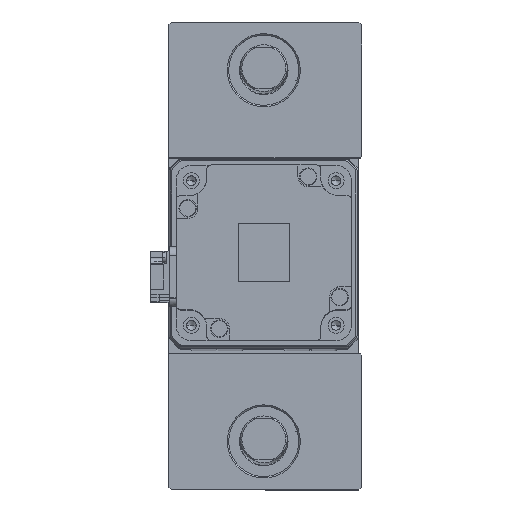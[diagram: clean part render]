
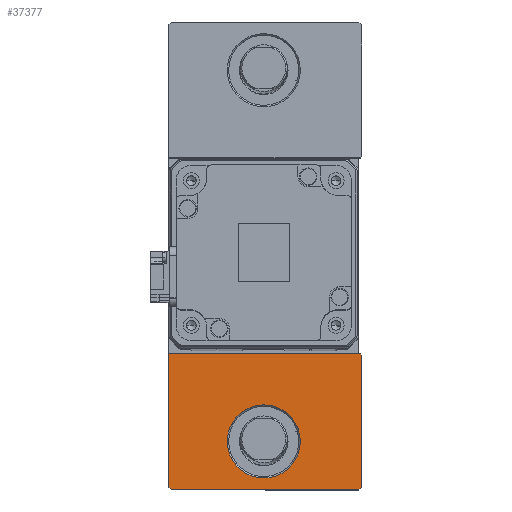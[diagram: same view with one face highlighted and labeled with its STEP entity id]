
A CAD part, top view. The second image highlights one B-rep face of the part: STEP entity #37377.
In plain terms, the highlighted planar face has unit normal (0, 0, 1).
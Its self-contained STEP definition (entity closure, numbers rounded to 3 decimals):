
#487 = VERTEX_POINT ( 'NONE', #15112 ) ;
#2893 = DIRECTION ( 'NONE',  ( 1., 0., 0. ) ) ;
#3188 = EDGE_CURVE ( 'NONE', #22196, #21367, #21254, .T. ) ;
#3394 = AXIS2_PLACEMENT_3D ( 'NONE', #28184, #10467, #31150 ) ;
#3604 = VECTOR ( 'NONE', #18352, 1000. ) ;
#4521 = VECTOR ( 'NONE', #8579, 1000. ) ;
#5482 = EDGE_LOOP ( 'NONE', ( #9201, #16929, #12163, #25404, #10764, #14669, #38247 ) ) ;
#6163 = CARTESIAN_POINT ( 'NONE',  ( -32.5, -33.5, 25. ) ) ;
#7015 = EDGE_CURVE ( 'NONE', #16646, #22649, #35262, .T. ) ;
#7076 = EDGE_CURVE ( 'NONE', #9862, #22196, #17694, .T. ) ;
#7449 = CARTESIAN_POINT ( 'NONE',  ( 0., 0., 25. ) ) ;
#7775 = CARTESIAN_POINT ( 'NONE',  ( 12.5, -63.5, 25. ) ) ;
#7862 = FACE_BOUND ( 'NONE', #19568, .T. ) ;
#8579 = DIRECTION ( 'NONE',  ( -0.707, 0.707, 0. ) ) ;
#8670 = CARTESIAN_POINT ( 'NONE',  ( 33., -33.5, 25. ) ) ;
#8919 = CARTESIAN_POINT ( 'NONE',  ( -32.5, -33.5, 25. ) ) ;
#9201 = ORIENTED_EDGE ( 'NONE', *, *, #26832, .T. ) ;
#9862 = VERTEX_POINT ( 'NONE', #8670 ) ;
#10312 = CARTESIAN_POINT ( 'NONE',  ( -55.75, -55.75, 25. ) ) ;
#10379 = DIRECTION ( 'NONE',  ( 1., 0., 0. ) ) ;
#10467 = DIRECTION ( 'NONE',  ( 0., 0., -1. ) ) ;
#10764 = ORIENTED_EDGE ( 'NONE', *, *, #7076, .T. ) ;
#11522 = VERTEX_POINT ( 'NONE', #16834 ) ;
#12082 = VECTOR ( 'NONE', #32974, 1000. ) ;
#12163 = ORIENTED_EDGE ( 'NONE', *, *, #26268, .T. ) ;
#12604 = CARTESIAN_POINT ( 'NONE',  ( 33.5, -33.5, 25. ) ) ;
#13003 = LINE ( 'NONE', #24056, #12082 ) ;
#13262 = LINE ( 'NONE', #29245, #4521 ) ;
#13383 = VECTOR ( 'NONE', #37338, 1000. ) ;
#14034 = VERTEX_POINT ( 'NONE', #17226 ) ;
#14115 = VECTOR ( 'NONE', #30985, 1000. ) ;
#14669 = ORIENTED_EDGE ( 'NONE', *, *, #3188, .T. ) ;
#15112 = CARTESIAN_POINT ( 'NONE',  ( 32.5, -80., 25. ) ) ;
#16646 = VERTEX_POINT ( 'NONE', #37392 ) ;
#16834 = CARTESIAN_POINT ( 'NONE',  ( 33.5, -34., 25. ) ) ;
#16929 = ORIENTED_EDGE ( 'NONE', *, *, #31032, .T. ) ;
#17226 = CARTESIAN_POINT ( 'NONE',  ( -31.5, -80., 25. ) ) ;
#17694 = LINE ( 'NONE', #6163, #32494 ) ;
#17720 = CARTESIAN_POINT ( 'NONE',  ( 33.5, -79., 25. ) ) ;
#17959 = ORIENTED_EDGE ( 'NONE', *, *, #7015, .T. ) ;
#18352 = DIRECTION ( 'NONE',  ( 1., 0., 0. ) ) ;
#19179 = VERTEX_POINT ( 'NONE', #17720 ) ;
#19286 = LINE ( 'NONE', #30280, #3604 ) ;
#19397 = ORIENTED_EDGE ( 'NONE', *, *, #24241, .T. ) ;
#19568 = EDGE_LOOP ( 'NONE', ( #19397, #17959 ) ) ;
#20558 = DIRECTION ( 'NONE',  ( 0., 0., -1. ) ) ;
#21254 = LINE ( 'NONE', #34376, #13383 ) ;
#21367 = VERTEX_POINT ( 'NONE', #28226 ) ;
#21579 = EDGE_CURVE ( 'NONE', #11522, #9862, #13262, .T. ) ;
#22196 = VERTEX_POINT ( 'NONE', #8919 ) ;
#22203 = LINE ( 'NONE', #12604, #36046 ) ;
#22649 = VERTEX_POINT ( 'NONE', #7775 ) ;
#23041 = EDGE_CURVE ( 'NONE', #21367, #14034, #30805, .T. ) ;
#23083 = AXIS2_PLACEMENT_3D ( 'NONE', #38264, #20558, #2893 ) ;
#24056 = CARTESIAN_POINT ( 'NONE',  ( 56.25, -56.25, 25. ) ) ;
#24241 = EDGE_CURVE ( 'NONE', #22649, #16646, #26531, .T. ) ;
#25404 = ORIENTED_EDGE ( 'NONE', *, *, #21579, .T. ) ;
#26268 = EDGE_CURVE ( 'NONE', #19179, #11522, #22203, .T. ) ;
#26531 = CIRCLE ( 'NONE', #3394, 12.5 ) ;
#26832 = EDGE_CURVE ( 'NONE', #14034, #487, #19286, .T. ) ;
#28017 = AXIS2_PLACEMENT_3D ( 'NONE', #7449, #28090, #10379 ) ;
#28090 = DIRECTION ( 'NONE',  ( 0., 0., 1. ) ) ;
#28184 = CARTESIAN_POINT ( 'NONE',  ( 0., -63.5, 25. ) ) ;
#28226 = CARTESIAN_POINT ( 'NONE',  ( -32.5, -79., 25. ) ) ;
#29245 = CARTESIAN_POINT ( 'NONE',  ( -0.25, -0.25, 25. ) ) ;
#30280 = CARTESIAN_POINT ( 'NONE',  ( -32.5, -80., 25. ) ) ;
#30805 = LINE ( 'NONE', #10312, #14115 ) ;
#30985 = DIRECTION ( 'NONE',  ( 0.707, -0.707, 0. ) ) ;
#31032 = EDGE_CURVE ( 'NONE', #487, #19179, #13003, .T. ) ;
#31150 = DIRECTION ( 'NONE',  ( 1., 0., 0. ) ) ;
#31415 = FACE_OUTER_BOUND ( 'NONE', #5482, .T. ) ;
#32494 = VECTOR ( 'NONE', #35547, 1000. ) ;
#32974 = DIRECTION ( 'NONE',  ( 0.707, 0.707, 0. ) ) ;
#34376 = CARTESIAN_POINT ( 'NONE',  ( -32.5, -33.5, 25. ) ) ;
#35262 = CIRCLE ( 'NONE', #23083, 12.5 ) ;
#35547 = DIRECTION ( 'NONE',  ( -1., 0., 0. ) ) ;
#36046 = VECTOR ( 'NONE', #36243, 1000. ) ;
#36243 = DIRECTION ( 'NONE',  ( 0., 1., 0. ) ) ;
#36847 = PLANE ( 'NONE',  #28017 ) ;
#37338 = DIRECTION ( 'NONE',  ( 0., -1., 0. ) ) ;
#37377 = ADVANCED_FACE ( 'NONE', ( #7862, #31415 ), #36847, .T. ) ;
#37392 = CARTESIAN_POINT ( 'NONE',  ( -12.5, -63.5, 25. ) ) ;
#38247 = ORIENTED_EDGE ( 'NONE', *, *, #23041, .T. ) ;
#38264 = CARTESIAN_POINT ( 'NONE',  ( 0., -63.5, 25. ) ) ;
